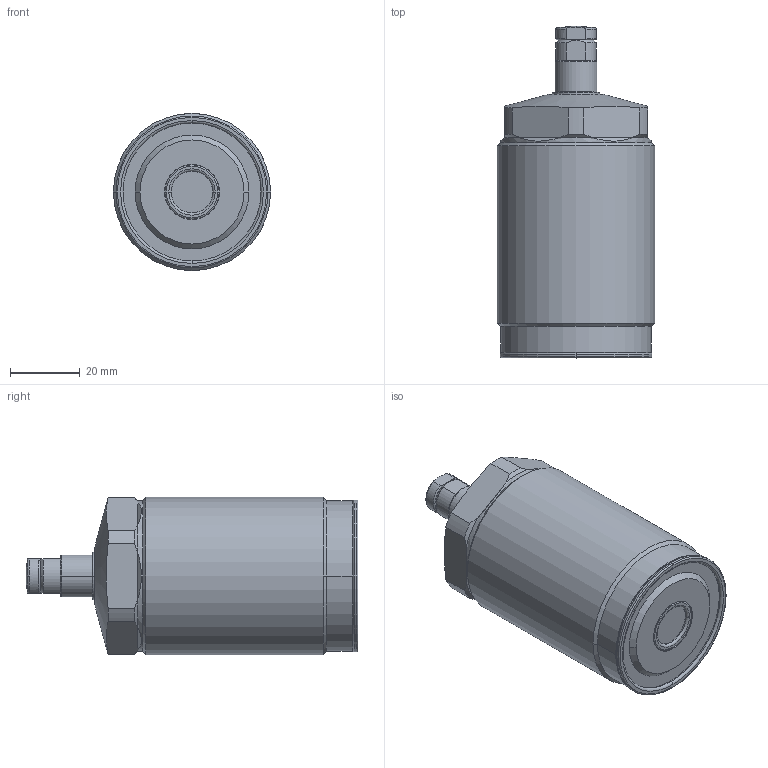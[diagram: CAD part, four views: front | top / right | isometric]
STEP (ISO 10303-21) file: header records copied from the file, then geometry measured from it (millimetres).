
FILE_DESCRIPTION(/* description */ (''),/* implementation_level */ '2;1');
FILE_NAME(/* name */ 'TNE45.stp',/* time_stamp */ '2025-01-09T15:53:31+08:00',/* author */ (''),/* organization */ (''),/* preprocessor_version */ 'ST-DEVELOPER v16.7',/* originating_system */ 'SIEMENS PLM Software NX 12.0',/* authorisation */ '');
FILE_SCHEMA (('AUTOMOTIVE_DESIGN { 1 0 10303 214 3 1 1 1 }'));
Length unit declared in the file: millimetre
Products named in the file (7): XLD-M8_Oring93; XLD-M8_contactbolt94; TNE45-0001; TNE45-0295; TNE45-0496; TNE45-0397; TNE45_stp
Assembly tree (6 placements, depth 3):
  TNE45_stp
    TNE45-0496
    TNE45-0295
    TNE45-0397
      XLD-M8_contactbolt94
      XLD-M8_Oring93
    TNE45-0001
Bounding box: 45 x 95 x 45 mm (x, y, z)
Volume: 114968.8 mm3; surface area: 15658.1 mm2
Topology: 5 solids, 5 shells, 141 faces, 308 edges, 185 vertices
Faces by surface type: cylinder 42, torus 38, plane 35, cone 24, sphere 2
Full cylindrical faces by diameter (mm): 43.2 x1, 45 x1
Entity records: 4192 total; most frequent: CARTESIAN_POINT 849, DIRECTION 762, ORIENTED_EDGE 608, AXIS2_PLACEMENT_3D 342, EDGE_CURVE 304, CIRCLE 188, VERTEX_POINT 185, EDGE_LOOP 159
